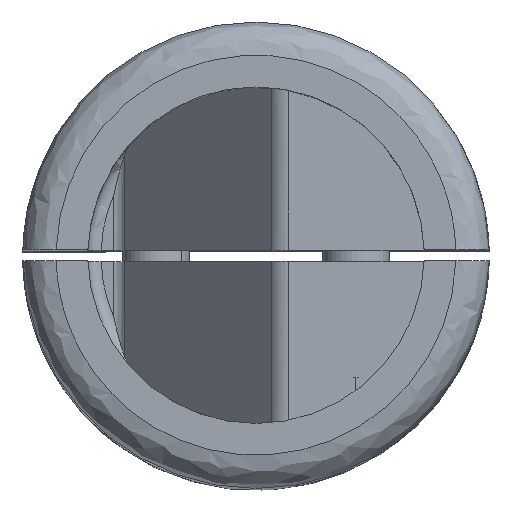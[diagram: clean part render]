
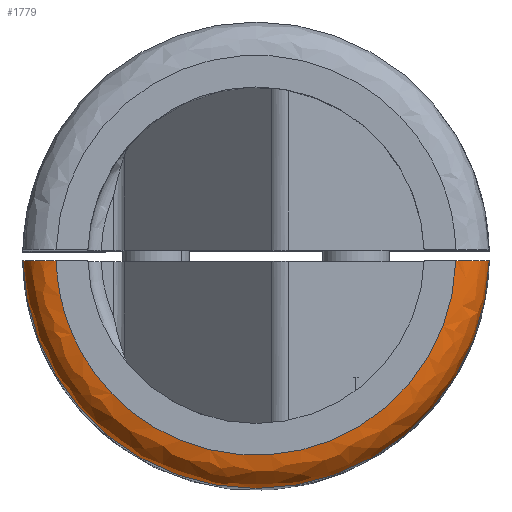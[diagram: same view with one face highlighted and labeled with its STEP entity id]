
A CAD part, top view. The second image highlights one B-rep face of the part: STEP entity #1779.
In plain terms, the highlighted free-form (B-spline) face has degree [3, 3] with [4, 4] control points.
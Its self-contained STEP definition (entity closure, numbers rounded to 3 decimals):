
#321 = CARTESIAN_POINT ( 'NONE',  ( 0., 0., 127. ) ) ;
#335 = CARTESIAN_POINT ( 'NONE',  ( 19.499, -0.5, 129.603 ) ) ;
#534 = CIRCLE ( 'NONE', #1117, 21. ) ;
#544 = CARTESIAN_POINT ( 'NONE',  ( 20.898, -0.5, 127.776 ) ) ;
#626 = CARTESIAN_POINT ( 'NONE',  ( 21., -0.11, 128.757 ) ) ;
#937 = CARTESIAN_POINT ( 'NONE',  ( 19.324, -0.5, 129.696 ) ) ;
#962 = CARTESIAN_POINT ( 'NONE',  ( -20.994, -0.5, 127. ) ) ;
#1072 = EDGE_CURVE ( 'NONE', #5284, #3899, #534, .T. ) ;
#1117 = AXIS2_PLACEMENT_3D ( 'NONE', #321, #4676, #7146 ) ;
#1146 = CARTESIAN_POINT ( 'NONE',  ( 20.381, -0.5, 128.828 ) ) ;
#1163 = CARTESIAN_POINT ( 'NONE',  ( -20.994, -0.5, 127. ) ) ;
#1177 = CARTESIAN_POINT ( 'NONE',  ( 20.994, -0.5, 127.198 ) ) ;
#1236 = CARTESIAN_POINT ( 'NONE',  ( -20.782, -41.673, 128.757 ) ) ;
#1328 = CARTESIAN_POINT ( 'NONE',  ( -19.757, -0.104, 130. ) ) ;
#1379 = ORIENTED_EDGE ( 'NONE', *, *, #4916, .T. ) ;
#1542 = CARTESIAN_POINT ( 'NONE',  ( 18.783, -0.5, 129.92 ) ) ;
#1562 = CARTESIAN_POINT ( 'NONE',  ( 18.389, -0.5, 130. ) ) ;
#1603 = CARTESIAN_POINT ( 'NONE',  ( 17.993, -0.5, 130. ) ) ;
#1779 = ADVANCED_FACE ( 'NONE', ( #1781 ), #7373, .T. ) ;
#1781 = FACE_OUTER_BOUND ( 'NONE', #2216, .T. ) ;
#1782 = CARTESIAN_POINT ( 'NONE',  ( 20.975, -0.5, 127.393 ) ) ;
#1860 = CARTESIAN_POINT ( 'NONE',  ( 19.757, -0.104, 130. ) ) ;
#2088 = CARTESIAN_POINT ( 'NONE',  ( -17.993, -0.5, 130. ) ) ;
#2112 = CARTESIAN_POINT ( 'NONE',  ( -18.191, -0.5, 130. ) ) ;
#2162 = CARTESIAN_POINT ( 'NONE',  ( -20.253, -0.5, 128.984 ) ) ;
#2216 = EDGE_LOOP ( 'NONE', ( #7169, #2625, #1379, #7258 ) ) ;
#2339 = CARTESIAN_POINT ( 'NONE',  ( 20.69, -0.5, 128.33 ) ) ;
#2398 = CARTESIAN_POINT ( 'NONE',  ( 19.977, -0.5, 129.259 ) ) ;
#2512 = CARTESIAN_POINT ( 'NONE',  ( -20.782, -41.673, 127. ) ) ;
#2517 =( BOUNDED_CURVE ( )  B_SPLINE_CURVE ( 3, ( #6983, #3944, #3298, #2088 ),
 .UNSPECIFIED., .F., .T. ) 
 B_SPLINE_CURVE_WITH_KNOTS ( ( 4, 4 ),
 ( 0., 1. ),
 .UNSPECIFIED. ) 
 CURVE ( )  GEOMETRIC_REPRESENTATION_ITEM ( )  RATIONAL_B_SPLINE_CURVE ( ( 1., 0.352, 0.352, 1. ) ) 
 REPRESENTATION_ITEM ( '' )  );
#2611 = CARTESIAN_POINT ( 'NONE',  ( -19.552, -39.207, 130. ) ) ;
#2625 = ORIENTED_EDGE ( 'NONE', *, *, #6247, .T. ) ;
#2765 = CARTESIAN_POINT ( 'NONE',  ( -20.596, -0.5, 128.506 ) ) ;
#3184 = CARTESIAN_POINT ( 'NONE',  ( -18., -0.094, 130. ) ) ;
#3298 = CARTESIAN_POINT ( 'NONE',  ( -17.046, -34.579, 130. ) ) ;
#3808 = B_SPLINE_CURVE_WITH_KNOTS ( 'NONE', 3,
 ( #5530, #1177, #1782, #544, #6042, #2339, #4228, #1146, #5470, #2398, #7733, #335, #937, #1542, #1562, #7184 ),
 .UNSPECIFIED., .F., .F.,
 ( 4, 2, 2, 2, 2, 2, 2, 4 ),
 ( 0., 0.001, 0.001, 0.002, 0.002, 0.003, 0.004, 0.005 ),
 .UNSPECIFIED. ) ;
#3887 = CARTESIAN_POINT ( 'NONE',  ( -20.914, -0.5, 127.79 ) ) ;
#3899 = VERTEX_POINT ( 'NONE', #1163 ) ;
#3944 = CARTESIAN_POINT ( 'NONE',  ( 17.046, -34.579, 130. ) ) ;
#3989 = CARTESIAN_POINT ( 'NONE',  ( -19.495, -0.5, 129.605 ) ) ;
#4003 = VERTEX_POINT ( 'NONE', #4357 ) ;
#4085 = CARTESIAN_POINT ( 'NONE',  ( -20.994, -0.5, 127.396 ) ) ;
#4172 = VERTEX_POINT ( 'NONE', #1603 ) ;
#4197 = CARTESIAN_POINT ( 'NONE',  ( 20.994, -0.5, 127. ) ) ;
#4228 = CARTESIAN_POINT ( 'NONE',  ( 20.598, -0.5, 128.502 ) ) ;
#4357 = CARTESIAN_POINT ( 'NONE',  ( -17.993, -0.5, 130. ) ) ;
#4527 = CARTESIAN_POINT ( 'NONE',  ( 18., -0.094, 130. ) ) ;
#4538 = CARTESIAN_POINT ( 'NONE',  ( -19.323, -0.5, 129.697 ) ) ;
#4676 = DIRECTION ( 'NONE',  ( 0., 0., -1. ) ) ;
#4916 = EDGE_CURVE ( 'NONE', #4003, #3899, #6935, .T. ) ;
#4921 = CARTESIAN_POINT ( 'NONE',  ( 20.782, -41.673, 128.757 ) ) ;
#5126 = CARTESIAN_POINT ( 'NONE',  ( -18.386, -0.5, 129.981 ) ) ;
#5201 = CARTESIAN_POINT ( 'NONE',  ( -17.993, -0.5, 130. ) ) ;
#5223 = CARTESIAN_POINT ( 'NONE',  ( -19.821, -0.5, 129.387 ) ) ;
#5284 = VERTEX_POINT ( 'NONE', #4197 ) ;
#5470 = CARTESIAN_POINT ( 'NONE',  ( 20.254, -0.5, 128.982 ) ) ;
#5530 = CARTESIAN_POINT ( 'NONE',  ( 20.994, -0.5, 127. ) ) ;
#5558 = CARTESIAN_POINT ( 'NONE',  ( -21., -0.11, 128.757 ) ) ;
#5669 = CARTESIAN_POINT ( 'NONE',  ( 17.813, -35.72, 130. ) ) ;
#5861 = CARTESIAN_POINT ( 'NONE',  ( -19.976, -0.5, 129.261 ) ) ;
#6042 = CARTESIAN_POINT ( 'NONE',  ( 20.841, -0.5, 127.967 ) ) ;
#6205 = CARTESIAN_POINT ( 'NONE',  ( 21., -0.11, 127. ) ) ;
#6247 = EDGE_CURVE ( 'NONE', #4172, #4003, #2517, .T. ) ;
#6286 = CARTESIAN_POINT ( 'NONE',  ( -17.813, -35.72, 130. ) ) ;
#6469 = CARTESIAN_POINT ( 'NONE',  ( -18.96, -0.5, 129.847 ) ) ;
#6487 = CARTESIAN_POINT ( 'NONE',  ( -20.377, -0.5, 128.833 ) ) ;
#6784 = CARTESIAN_POINT ( 'NONE',  ( 20.782, -41.673, 127. ) ) ;
#6935 = B_SPLINE_CURVE_WITH_KNOTS ( 'NONE', 3,
 ( #5201, #2112, #5126, #7603, #6469, #4538, #3989, #5223, #5861, #2162, #6487, #2765, #7117, #3887, #4085, #962 ),
 .UNSPECIFIED., .F., .F.,
 ( 4, 2, 2, 2, 2, 2, 2, 4 ),
 ( 0., 0.001, 0.001, 0.002, 0.002, 0.003, 0.004, 0.005 ),
 .UNSPECIFIED. ) ;
#6983 = CARTESIAN_POINT ( 'NONE',  ( 17.993, -0.5, 130. ) ) ;
#7117 = CARTESIAN_POINT ( 'NONE',  ( -20.69, -0.5, 128.331 ) ) ;
#7146 = DIRECTION ( 'NONE',  ( 1., 0., 0. ) ) ;
#7169 = ORIENTED_EDGE ( 'NONE', *, *, #7761, .T. ) ;
#7184 = CARTESIAN_POINT ( 'NONE',  ( 17.993, -0.5, 130. ) ) ;
#7258 = ORIENTED_EDGE ( 'NONE', *, *, #1072, .F. ) ;
#7373 =( BOUNDED_SURFACE ( )  B_SPLINE_SURFACE ( 3, 3, ( 
 ( #6205, #6784, #2512, #8019 ),
 ( #626, #4921, #1236, #5558 ),
 ( #1860, #7451, #2611, #1328 ),
 ( #4527, #5669, #6286, #3184 ) ),
 .UNSPECIFIED., .F., .F., .T. ) 
 B_SPLINE_SURFACE_WITH_KNOTS ( ( 4, 4 ),
 ( 4, 4 ),
 ( 0., 1. ),
 ( 0., 1. ),
 .UNSPECIFIED. ) 
 GEOMETRIC_REPRESENTATION_ITEM ( )  RATIONAL_B_SPLINE_SURFACE ( (
 ( 1., 0.337, 0.337, 1.),
 ( 0.805, 0.271, 0.271, 0.805),
 ( 0.805, 0.271, 0.271, 0.805),
 ( 1., 0.337, 0.337, 1.) ) ) 
 REPRESENTATION_ITEM ( '' )  SURFACE ( )  );
#7451 = CARTESIAN_POINT ( 'NONE',  ( 19.552, -39.207, 130. ) ) ;
#7603 = CARTESIAN_POINT ( 'NONE',  ( -18.769, -0.5, 129.904 ) ) ;
#7733 = CARTESIAN_POINT ( 'NONE',  ( 19.826, -0.5, 129.383 ) ) ;
#7761 = EDGE_CURVE ( 'NONE', #5284, #4172, #3808, .T. ) ;
#8019 = CARTESIAN_POINT ( 'NONE',  ( -21., -0.11, 127. ) ) ;
